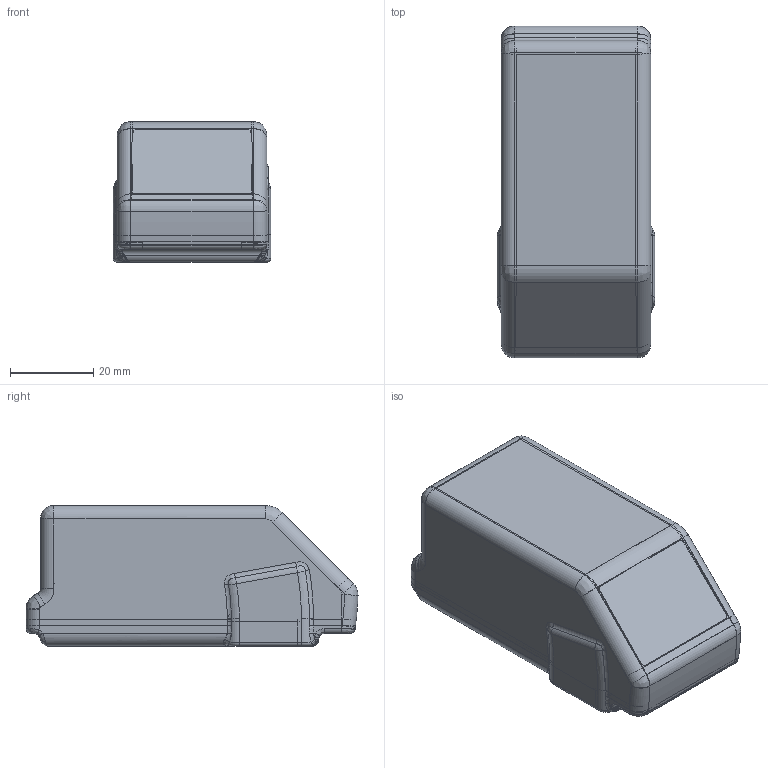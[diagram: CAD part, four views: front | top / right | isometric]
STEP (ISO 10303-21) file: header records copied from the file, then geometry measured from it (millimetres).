
FILE_DESCRIPTION(/* description */ (''),/* implementation_level */ '2;1');
FILE_NAME(/* name */ 'TX.step',/* time_stamp */ '2025-06-20T20:28:59+02:00',/* author */ (''),/* organization */ (''),/* preprocessor_version */ 'ST-DEVELOPER v20.1',/* originating_system */ 'Autodesk Translation Framework v14.10.0.0',/* authorisation */ '');
FILE_SCHEMA (('AUTOMOTIVE_DESIGN { 1 0 10303 214 3 1 1 }'));
Products named in the file (8): Enclosure TX V4 Normal; Beacon; EasyEDA PCB Model~yOpz; Internal esqueleton; Bounding geometry for strap no tolerance; Bounding geometry for strap with tolerance; Bounding geometry no tolerance; Bounding geometry tolerance
Assembly tree (7 placements, depth 3):
  Enclosure TX V4 Normal
    Beacon
      EasyEDA PCB Model~yOpz
      Internal esqueleton
    Bounding geometry for strap no tolerance
    Bounding geometry for strap with tolerance
    Bounding geometry no tolerance
    Bounding geometry tolerance
Bounding box: 37.84 x 79.69 x 33.8 mm (x, y, z)
Surface area: 75488.1 mm2
Topology: 15 solids, 15 shells, 2819 faces, 7205 edges, 4359 vertices
Faces by surface type: cylinder 1006, bspline 787, plane 708, torus 162, cone 113, sphere 43
Full cylindrical faces by diameter (mm): 0.508 x6, 1.3 x4, 1.48 x1, 1.52 x1, 1.524 x6, 1.8 x4, 2 x1, 2.1 x6, 2.2 x1, 2.54 x4
Entity records: 123726 total; most frequent: CARTESIAN_POINT 58155, ORIENTED_EDGE 14244, DIRECTION 13037, EDGE_CURVE 7122, AXIS2_PLACEMENT_3D 4998, VERTEX_POINT 4359, LINE 3041, VECTOR 3041
